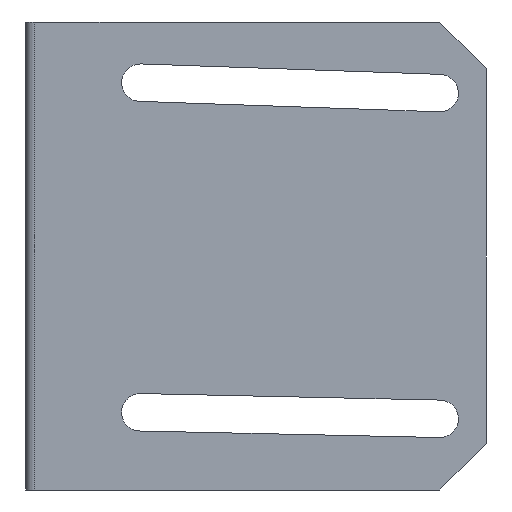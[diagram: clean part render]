
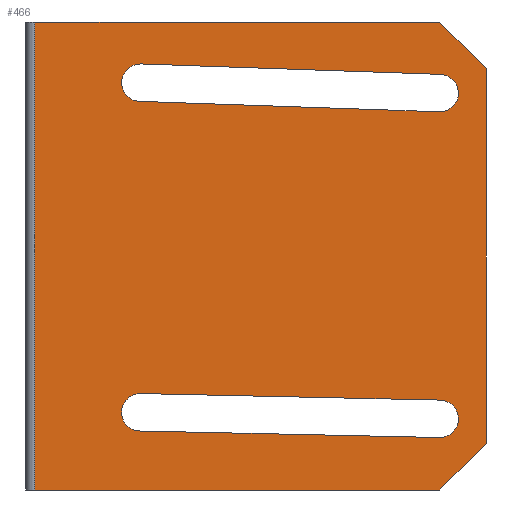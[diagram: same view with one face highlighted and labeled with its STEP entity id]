
A CAD part, front view. The second image highlights one B-rep face of the part: STEP entity #466.
In plain terms, the highlighted planar face has unit normal (0, -1, 0).
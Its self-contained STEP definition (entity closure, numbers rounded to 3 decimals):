
#4 = VECTOR ( 'NONE', #91, 1000. ) ;
#7 = AXIS2_PLACEMENT_3D ( 'NONE', #874, #60, #152 ) ;
#8 = VERTEX_POINT ( 'NONE', #150 ) ;
#17 = ORIENTED_EDGE ( 'NONE', *, *, #614, .T. ) ;
#20 = ORIENTED_EDGE ( 'NONE', *, *, #283, .F. ) ;
#28 = CARTESIAN_POINT ( 'NONE',  ( 98.5, -98.5, 100. ) ) ;
#29 = VECTOR ( 'NONE', #182, 1000. ) ;
#36 = AXIS2_PLACEMENT_3D ( 'NONE', #480, #839, #1025 ) ;
#46 = CARTESIAN_POINT ( 'NONE',  ( 88.5, -98.5, 0. ) ) ;
#54 = CARTESIAN_POINT ( 'NONE',  ( 98.5, -98.5, 90. ) ) ;
#60 = DIRECTION ( 'NONE',  ( 0., 1., 0. ) ) ;
#67 = VERTEX_POINT ( 'NONE', #779 ) ;
#81 = CARTESIAN_POINT ( 'NONE',  ( 24.677, -98.5, 91.037 ) ) ;
#89 = DIRECTION ( 'NONE',  ( 0., 0., -1. ) ) ;
#91 = DIRECTION ( 'NONE',  ( -1., 0., 0.022 ) ) ;
#114 = LINE ( 'NONE', #1004, #735 ) ;
#122 = ORIENTED_EDGE ( 'NONE', *, *, #445, .T. ) ;
#125 = LINE ( 'NONE', #295, #827 ) ;
#130 = CIRCLE ( 'NONE', #36, 4. ) ;
#136 = CIRCLE ( 'NONE', #7, 4. ) ;
#138 = DIRECTION ( 'NONE',  ( 0., 1., 0. ) ) ;
#143 = EDGE_CURVE ( 'NONE', #836, #652, #1152, .T. ) ;
#146 = LINE ( 'NONE', #46, #584 ) ;
#150 = CARTESIAN_POINT ( 'NONE',  ( 88.361, -98.5, 80.818 ) ) ;
#152 = DIRECTION ( 'NONE',  ( 0., 0., 1. ) ) ;
#155 = FACE_OUTER_BOUND ( 'NONE', #1138, .T. ) ;
#162 = CARTESIAN_POINT ( 'NONE',  ( 88.413, -98.5, 11.216 ) ) ;
#175 = CARTESIAN_POINT ( 'NONE',  ( 98.5, -98.5, 90. ) ) ;
#182 = DIRECTION ( 'NONE',  ( -0.999, 0., 0.035 ) ) ;
#190 = CIRCLE ( 'NONE', #678, 4. ) ;
#193 = EDGE_CURVE ( 'NONE', #417, #928, #715, .T. ) ;
#209 = EDGE_CURVE ( 'NONE', #8, #799, #794, .T. ) ;
#215 = VERTEX_POINT ( 'NONE', #535 ) ;
#231 = DIRECTION ( 'NONE',  ( 0.707, 0., 0.707 ) ) ;
#249 = CARTESIAN_POINT ( 'NONE',  ( 88.587, -98.5, 19.214 ) ) ;
#253 = EDGE_CURVE ( 'NONE', #652, #447, #125, .T. ) ;
#256 = VERTEX_POINT ( 'NONE', #648 ) ;
#265 = DIRECTION ( 'NONE',  ( -0.707, 0., 0.707 ) ) ;
#274 = DIRECTION ( 'NONE',  ( 1., 0., -0.022 ) ) ;
#283 = EDGE_CURVE ( 'NONE', #836, #928, #114, .T. ) ;
#293 = CARTESIAN_POINT ( 'NONE',  ( 24.538, -98.5, 91.039 ) ) ;
#295 = CARTESIAN_POINT ( 'NONE',  ( 0., -98.5, 0. ) ) ;
#304 = VECTOR ( 'NONE', #550, 1000. ) ;
#307 = LINE ( 'NONE', #28, #362 ) ;
#309 = CARTESIAN_POINT ( 'NONE',  ( 88.5, -98.5, 100. ) ) ;
#310 = FACE_BOUND ( 'NONE', #795, .T. ) ;
#311 = ORIENTED_EDGE ( 'NONE', *, *, #1035, .T. ) ;
#313 = EDGE_CURVE ( 'NONE', #417, #433, #307, .T. ) ;
#316 = CARTESIAN_POINT ( 'NONE',  ( 88.587, -98.5, 19.214 ) ) ;
#333 = AXIS2_PLACEMENT_3D ( 'NONE', #760, #1107, #403 ) ;
#340 = CARTESIAN_POINT ( 'NONE',  ( 24.515, -98.5, 20.61 ) ) ;
#347 = AXIS2_PLACEMENT_3D ( 'NONE', #696, #855, #945 ) ;
#352 = CARTESIAN_POINT ( 'NONE',  ( 2., -98.5, 100. ) ) ;
#362 = VECTOR ( 'NONE', #554, 1000. ) ;
#376 = AXIS2_PLACEMENT_3D ( 'NONE', #831, #393, #926 ) ;
#379 = ORIENTED_EDGE ( 'NONE', *, *, #1049, .T. ) ;
#386 = ORIENTED_EDGE ( 'NONE', *, *, #1067, .T. ) ;
#393 = DIRECTION ( 'NONE',  ( 0., 1., 0. ) ) ;
#403 = DIRECTION ( 'NONE',  ( 0., 0., 1. ) ) ;
#406 = CARTESIAN_POINT ( 'NONE',  ( 24.602, -98.5, 20.609 ) ) ;
#416 = DIRECTION ( 'NONE',  ( 0., 0., 1. ) ) ;
#417 = VERTEX_POINT ( 'NONE', #54 ) ;
#420 = ORIENTED_EDGE ( 'NONE', *, *, #209, .T. ) ;
#426 = VERTEX_POINT ( 'NONE', #406 ) ;
#433 = VERTEX_POINT ( 'NONE', #570 ) ;
#445 = EDGE_CURVE ( 'NONE', #447, #433, #146, .T. ) ;
#447 = VERTEX_POINT ( 'NONE', #763 ) ;
#453 = CARTESIAN_POINT ( 'NONE',  ( 2., -98.5, 100. ) ) ;
#466 = ADVANCED_FACE ( 'NONE', ( #1042, #310, #155 ), #666, .F. ) ;
#475 = ORIENTED_EDGE ( 'NONE', *, *, #1006, .T. ) ;
#480 = CARTESIAN_POINT ( 'NONE',  ( 24.515, -98.5, 16.61 ) ) ;
#498 = ORIENTED_EDGE ( 'NONE', *, *, #143, .T. ) ;
#512 = ORIENTED_EDGE ( 'NONE', *, *, #313, .F. ) ;
#531 = EDGE_CURVE ( 'NONE', #741, #426, #130, .T. ) ;
#535 = CARTESIAN_POINT ( 'NONE',  ( 24.428, -98.5, 12.611 ) ) ;
#543 = AXIS2_PLACEMENT_3D ( 'NONE', #1130, #138, #416 ) ;
#545 = VERTEX_POINT ( 'NONE', #316 ) ;
#550 = DIRECTION ( 'NONE',  ( 0.999, 0., -0.035 ) ) ;
#554 = DIRECTION ( 'NONE',  ( 0., 0., -1. ) ) ;
#570 = CARTESIAN_POINT ( 'NONE',  ( 98.5, -98.5, 10. ) ) ;
#584 = VECTOR ( 'NONE', #231, 1000. ) ;
#598 = CARTESIAN_POINT ( 'NONE',  ( 24.515, -98.5, 16.61 ) ) ;
#614 = EDGE_CURVE ( 'NONE', #426, #545, #956, .T. ) ;
#641 = EDGE_CURVE ( 'NONE', #67, #215, #986, .T. ) ;
#648 = CARTESIAN_POINT ( 'NONE',  ( 88.639, -98.5, 88.813 ) ) ;
#651 = VECTOR ( 'NONE', #89, 1000. ) ;
#652 = VERTEX_POINT ( 'NONE', #796 ) ;
#653 = CIRCLE ( 'NONE', #543, 4. ) ;
#666 = PLANE ( 'NONE',  #333 ) ;
#678 = AXIS2_PLACEMENT_3D ( 'NONE', #598, #849, #1123 ) ;
#681 = ORIENTED_EDGE ( 'NONE', *, *, #253, .T. ) ;
#692 = ORIENTED_EDGE ( 'NONE', *, *, #193, .T. ) ;
#696 = CARTESIAN_POINT ( 'NONE',  ( 24.538, -98.5, 87.039 ) ) ;
#699 = ORIENTED_EDGE ( 'NONE', *, *, #641, .T. ) ;
#700 = CIRCLE ( 'NONE', #376, 4. ) ;
#715 = LINE ( 'NONE', #175, #924 ) ;
#729 = LINE ( 'NONE', #1090, #304 ) ;
#735 = VECTOR ( 'NONE', #1093, 1000. ) ;
#741 = VERTEX_POINT ( 'NONE', #340 ) ;
#760 = CARTESIAN_POINT ( 'NONE',  ( 0., -98.5, 100. ) ) ;
#763 = CARTESIAN_POINT ( 'NONE',  ( 88.5, -98.5, 0. ) ) ;
#779 = CARTESIAN_POINT ( 'NONE',  ( 88.413, -98.5, 11.216 ) ) ;
#794 = LINE ( 'NONE', #806, #29 ) ;
#795 = EDGE_LOOP ( 'NONE', ( #1040, #878, #420, #386, #311 ) ) ;
#796 = CARTESIAN_POINT ( 'NONE',  ( 2., -98.5, 0. ) ) ;
#799 = VERTEX_POINT ( 'NONE', #1012 ) ;
#806 = CARTESIAN_POINT ( 'NONE',  ( 88.361, -98.5, 80.818 ) ) ;
#827 = VECTOR ( 'NONE', #1015, 1000. ) ;
#831 = CARTESIAN_POINT ( 'NONE',  ( 88.5, -98.5, 84.815 ) ) ;
#836 = VERTEX_POINT ( 'NONE', #453 ) ;
#839 = DIRECTION ( 'NONE',  ( 0., 1., 0. ) ) ;
#849 = DIRECTION ( 'NONE',  ( 0., 1., 0. ) ) ;
#855 = DIRECTION ( 'NONE',  ( 0., 1., 0. ) ) ;
#862 = VERTEX_POINT ( 'NONE', #293 ) ;
#874 = CARTESIAN_POINT ( 'NONE',  ( 24.538, -98.5, 87.039 ) ) ;
#878 = ORIENTED_EDGE ( 'NONE', *, *, #906, .T. ) ;
#889 = EDGE_CURVE ( 'NONE', #1053, #256, #729, .T. ) ;
#894 = VECTOR ( 'NONE', #274, 1000. ) ;
#906 = EDGE_CURVE ( 'NONE', #256, #8, #700, .T. ) ;
#924 = VECTOR ( 'NONE', #265, 1000. ) ;
#926 = DIRECTION ( 'NONE',  ( 0., 0., 1. ) ) ;
#928 = VERTEX_POINT ( 'NONE', #309 ) ;
#945 = DIRECTION ( 'NONE',  ( 0., 0., 1. ) ) ;
#956 = LINE ( 'NONE', #249, #894 ) ;
#959 = CIRCLE ( 'NONE', #347, 4. ) ;
#986 = LINE ( 'NONE', #162, #4 ) ;
#1004 = CARTESIAN_POINT ( 'NONE',  ( 0., -98.5, 100. ) ) ;
#1006 = EDGE_CURVE ( 'NONE', #545, #67, #653, .T. ) ;
#1012 = CARTESIAN_POINT ( 'NONE',  ( 24.399, -98.5, 83.042 ) ) ;
#1015 = DIRECTION ( 'NONE',  ( 1., 0., 0. ) ) ;
#1025 = DIRECTION ( 'NONE',  ( 0., 0., 1. ) ) ;
#1035 = EDGE_CURVE ( 'NONE', #862, #1053, #136, .T. ) ;
#1040 = ORIENTED_EDGE ( 'NONE', *, *, #889, .T. ) ;
#1042 = FACE_BOUND ( 'NONE', #1066, .T. ) ;
#1049 = EDGE_CURVE ( 'NONE', #215, #741, #190, .T. ) ;
#1053 = VERTEX_POINT ( 'NONE', #81 ) ;
#1066 = EDGE_LOOP ( 'NONE', ( #17, #475, #699, #379, #1121 ) ) ;
#1067 = EDGE_CURVE ( 'NONE', #799, #862, #959, .T. ) ;
#1090 = CARTESIAN_POINT ( 'NONE',  ( 88.639, -98.5, 88.813 ) ) ;
#1093 = DIRECTION ( 'NONE',  ( 1., 0., 0. ) ) ;
#1107 = DIRECTION ( 'NONE',  ( 0., 1., 0. ) ) ;
#1121 = ORIENTED_EDGE ( 'NONE', *, *, #531, .T. ) ;
#1123 = DIRECTION ( 'NONE',  ( 0., 0., 1. ) ) ;
#1130 = CARTESIAN_POINT ( 'NONE',  ( 88.5, -98.5, 15.215 ) ) ;
#1138 = EDGE_LOOP ( 'NONE', ( #512, #692, #20, #498, #681, #122 ) ) ;
#1152 = LINE ( 'NONE', #352, #651 ) ;
